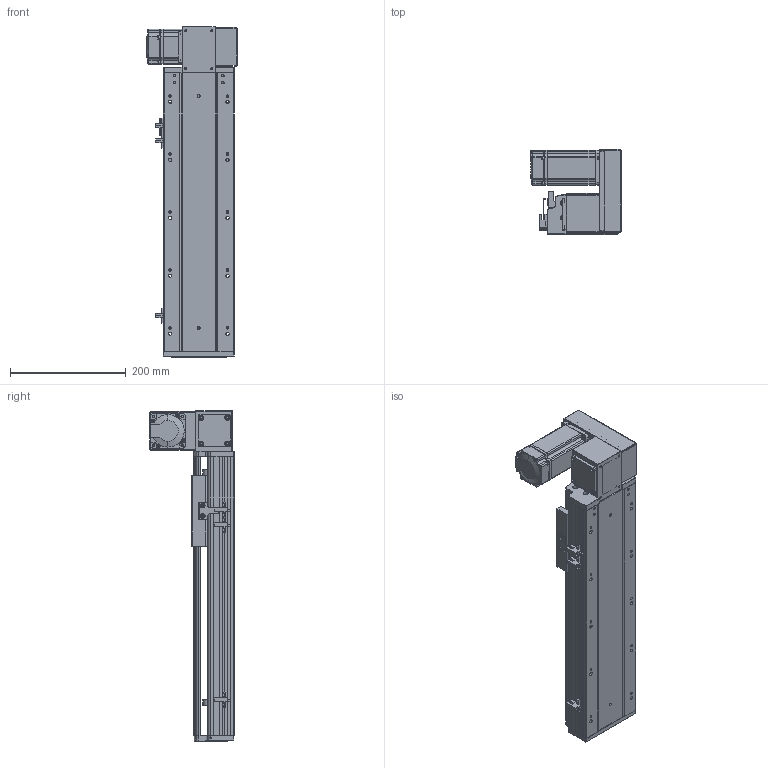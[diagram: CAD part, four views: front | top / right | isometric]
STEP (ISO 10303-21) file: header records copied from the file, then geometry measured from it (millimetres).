
FILE_DESCRIPTION (( 'STEP AP203' ), '1' );
FILE_NAME ('RY120-T-300-UR.SLDASM_250.step', '2021-03-01T05:55:30', ( '盈信电脑' ), ( '东莞市道滘镇水果街19号' ), 'SwSTEP 2.0', 'SolidWorks 2012', '' );
FILE_SCHEMA (( 'CONFIG_CONTROL_DESIGN' ));
Length unit declared in the file: millimetre
Products named in the file (17): RY120-T-300-UR.SLDASM_250; 15; RY120-T主同步轮轴承压盖; RY120-T萇儂欶; RY120-T蹟翐M4; RY120-T翋肮祭謫裔啣; 滅袉蝶18-10; RY120-T萇儂假蚾啣; RY120-T肮祭湍揤踡輸2; RY120外置感应片(140共用）; RY120-T翋肮祭盓傅釱; RY120-T肮祭湍揤踡輸1; 覜茼ん672; RY120-T-300-UR倰第奻裔啣_250; RY120肮祭湍臏賑輸; RY120綴裔啣; RY120-T-300-UR倰第菁釱_250
Assembly tree (22 placements, depth 2):
  RY120-T-300-UR.SLDASM_250
    RY120-T-300-UR倰第菁釱_250
    RY120-T-300-UR倰第奻裔啣_250
    RY120肮祭湍臏賑輸
    RY120綴裔啣
    覜茼ん672  x3
    RY120外置感应片(140共用）
    RY120-T肮祭湍揤踡輸1
    RY120-T肮祭湍揤踡輸2
    RY120-T翋肮祭盓傅釱
    RY120-T萇儂假蚾啣
    滅袉蝶18-10  x2
    RY120-T翋肮祭謫裔啣
    15
    RY120-T蹟翐M4  x4
    RY120-T萇儂欶
    RY120-T主同步轮轴承压盖
Bounding box: 155.5 x 146 x 571 mm (x, y, z)
Volume: 1973902.2 mm3; surface area: 700092.8 mm2
Topology: 23 solids, 23 shells, 2636 faces, 7168 edges, 4622 vertices
Faces by surface type: plane 1396, cylinder 954, cone 197, bspline 89
Entity records: 83221 total; most frequent: CARTESIAN_POINT 20732, ORIENTED_EDGE 12856, DIRECTION 12182, EDGE_CURVE 6428, VERTEX_POINT 4209, LINE 4120, VECTOR 4120, AXIS2_PLACEMENT_3D 4031
